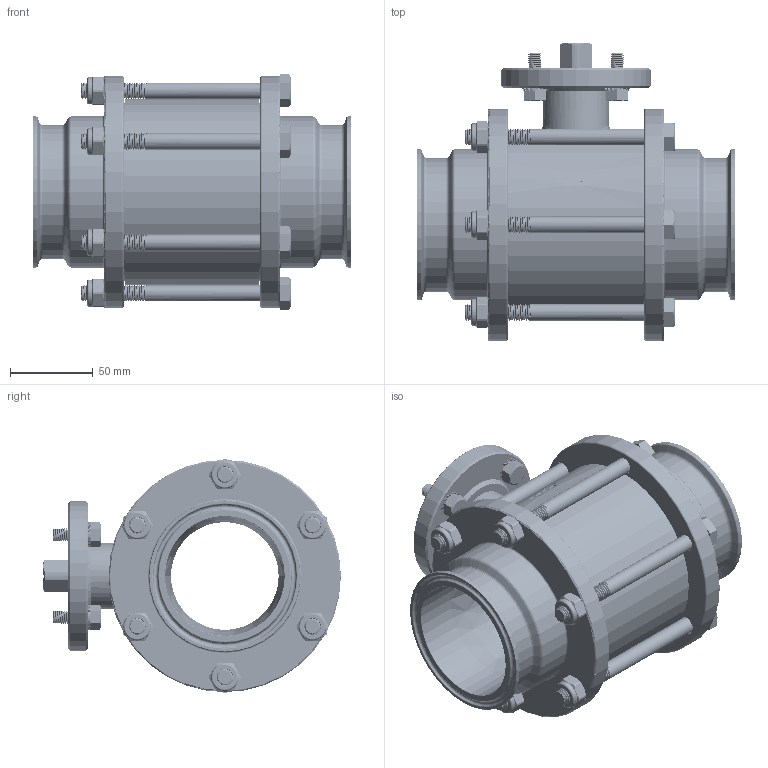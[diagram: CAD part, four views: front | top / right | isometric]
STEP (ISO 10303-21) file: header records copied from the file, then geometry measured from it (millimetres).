
FILE_DESCRIPTION((''),'2;1');
FILE_NAME('PARTE_VUOTA','2025-11-04T15:45:45',('tecnico2'),('CDM Tecnoconsulting'),'CREO PARAMETRIC BY PTC INC, 2024063','CREO PARAMETRIC BY PTC INC, 2024063','');
FILE_SCHEMA(('AUTOMOTIVE_DESIGN { 1 0 10303 214 1 1 1 1 }'));
Products named in the file (1): PARTE_VUOTA
Bounding box: 192.2 x 179.5 x 141.63 mm (x, y, z)
Volume: 1046377.9 mm3; surface area: 278126.5 mm2
Topology: 1 solids, 5 shells, 2160 faces, 5898 edges, 3794 vertices
Faces by surface type: cylinder 870, plane 593, cone 289, bspline 266, torus 82, extrusion 56, sphere 4
Entity records: 168145 total; most frequent: CARTESIAN_POINT 100208, ORIENTED_EDGE 11776, DIRECTION 8434, PRESENTATION_STYLE_ASSIGNMENT 5901, STYLED_ITEM 5889, CURVE_STYLE 5888, EDGE_CURVE 5888, VERTEX_POINT 3794
